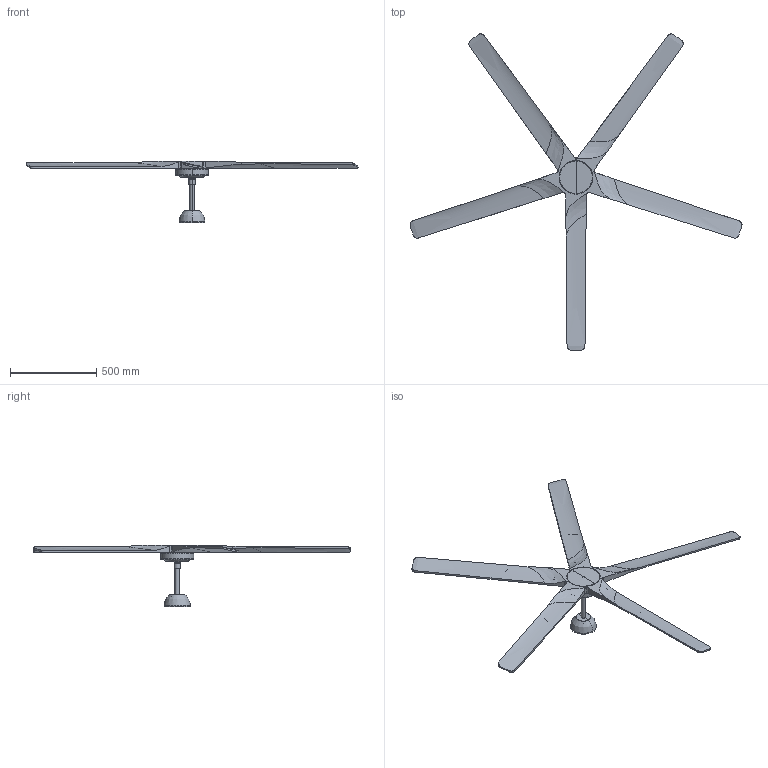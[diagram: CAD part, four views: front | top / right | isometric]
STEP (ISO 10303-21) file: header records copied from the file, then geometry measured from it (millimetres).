
FILE_DESCRIPTION(/* description */ (''),/* implementation_level */ '2;1');
FILE_NAME(/* name */ '34190.step',/* time_stamp */ '2024-09-09T16:18:56+02:00',/* author */ ('RenataManzini'),/* organization */ (''),/* preprocessor_version */ 'ST-DEVELOPER v20',/* originating_system */ 'AutoCAD Mechanical',/* authorisation */ '');
FILE_SCHEMA (('AUTOMOTIVE_DESIGN { 1 0 10303 214 3 1 1 }'));
Length unit declared in the file: millimetre
Products named in the file (2): Product; bigwood_2000 - fan-529132-_3D_
Assembly tree (1 placements, depth 2):
  Product
    bigwood_2000 - fan-529132-_3D_
Bounding box: 1920.12 x 1828.6 x 354.2 mm (x, y, z)
Volume: 8956182.3 mm3; surface area: 1578463 mm2
Topology: 14 solids, 14 shells, 469 faces, 1242 edges, 816 vertices
Faces by surface type: cylinder 228, plane 186, bspline 27, torus 22, cone 6
Entity records: 17918 total; most frequent: CARTESIAN_POINT 6231, ORIENTED_EDGE 2478, DIRECTION 2316, EDGE_CURVE 1239, AXIS2_PLACEMENT_3D 875, VERTEX_POINT 811, LINE 566, VECTOR 566
